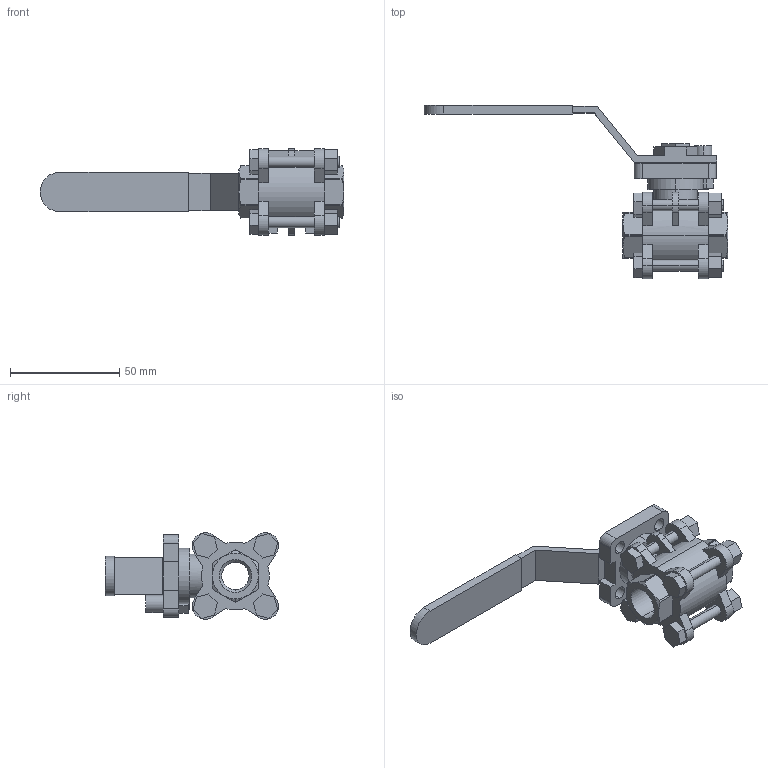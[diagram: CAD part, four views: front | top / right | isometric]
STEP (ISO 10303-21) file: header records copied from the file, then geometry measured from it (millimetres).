
FILE_DESCRIPTION (( 'STEP AP203' ), '1' );
FILE_NAME ('C3.622I010IFVPB0.STEP', '2018-10-12T06:33:25', ( '' ), ( '' ), 'SwSTEP 2.0', 'SolidWorks 2014', '' );
FILE_SCHEMA (( 'CONFIG_CONTROL_DESIGN' ));
Length unit declared in the file: millimetre
Products named in the file (1): C3.622I010IFVPB0
Bounding box: 139 x 79.28 x 39.58 mm (x, y, z)
Volume: 55933.7 mm3; surface area: 23808.6 mm2
Topology: 1 solids, 2 shells, 265 faces, 690 edges, 453 vertices
Faces by surface type: plane 167, cylinder 80, cone 18
Entity records: 8392 total; most frequent: CARTESIAN_POINT 1633, DIRECTION 1389, ORIENTED_EDGE 1380, EDGE_CURVE 690, AXIS2_PLACEMENT_3D 463, LINE 463, VECTOR 463, VERTEX_POINT 453
